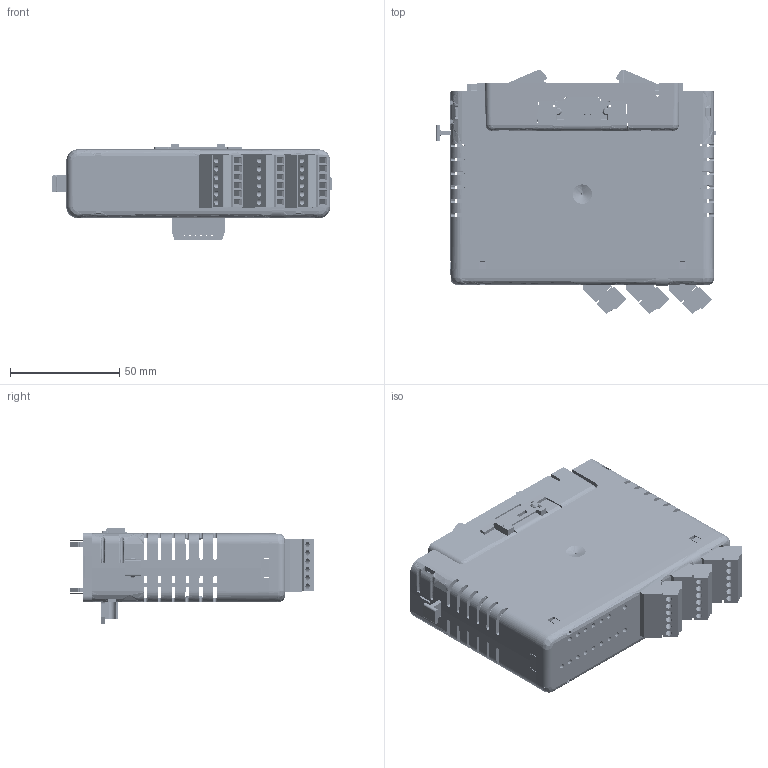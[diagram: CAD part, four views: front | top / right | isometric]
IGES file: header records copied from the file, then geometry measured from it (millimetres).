
Start section: C
Global section: file name: CSDIO14x.igs; native system: By Siemens PLM Incorporated; preprocessor: XPlus GENERIC/IGES 17.0.49; author: Author; organization: Title; date: 20150925.111549; units: millimetre
Bounding box: 128.14 x 111.65 x 43.84 mm (x, y, z)
Surface area: 142972.1 mm2 (no closed solid volume)
Topology: 0 solids, 0 shells, 5074 faces, 29078 edges, 29035 vertices
Faces by surface type: bspline 5074
